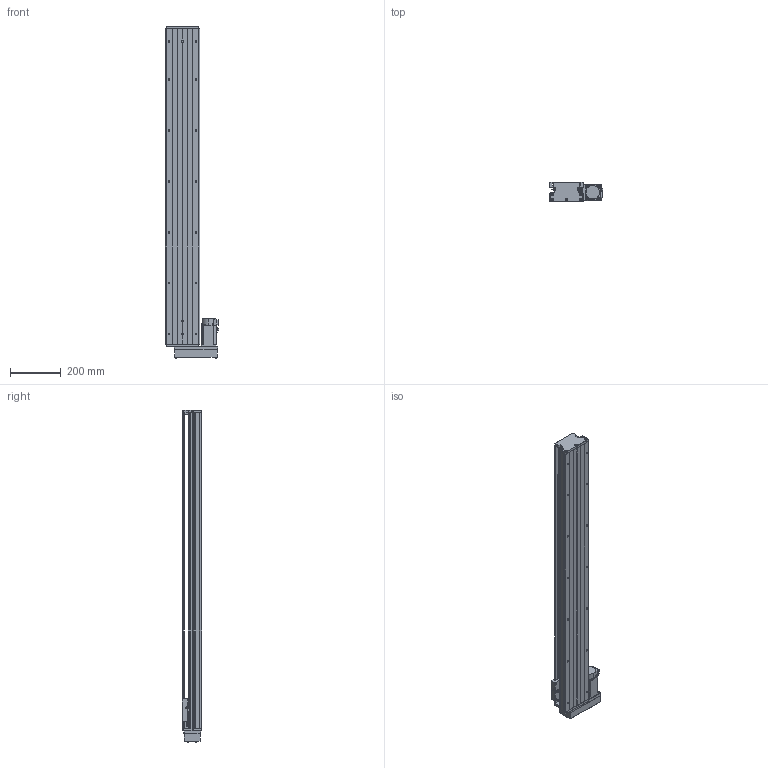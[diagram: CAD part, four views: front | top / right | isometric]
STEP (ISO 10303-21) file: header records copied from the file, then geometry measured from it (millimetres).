
FILE_DESCRIPTION (( 'STEP AP203' ), '1' );
FILE_NAME ('KTH130-1100-BR-M40-C4.step', '2023-06-30T04:10:27', ( '微软用户' ), ( '微软中国' ), 'SwSTEP 2.0', 'SolidWorks 2020', '' );
FILE_SCHEMA (( 'CONFIG_CONTROL_DESIGN' ));
Length unit declared in the file: millimetre
Products named in the file (19): CTHA60-017; HG-KN43J-S100; KTH130-002_KTH130-002; EE_SX911P_R; GBT 70.2-M4¡Á35_M4¡Á35; KTH130-004; CTHA60-016; GTH14-015-2_CTHA86-015-2; KTH130-005; GBT 70.1-M3℅5; GTH14-033; GB1155-6X6; GBT77-2000 M3×3; KTH130-1100-BR-M40-C4; GBT70.1 M5℅16; す晦芛蹟隊 M3℅5; GBT 70.2-M3¡Á5_M3¡Á6; GBT 70.3-M3℅8; GTH14-001_1100
Assembly tree (53 placements, depth 2):
  KTH130-1100-BR-M40-C4
    GTH14-001_1100
    KTH130-002_KTH130-002
    KTH130-004
    KTH130-005
    GB1155-6X6  x2
    GBT70.1 M5℅16  x10
    GBT 70.2-M3¡Á5_M3¡Á6  x4
    CTHA60-017  x3
    EE_SX911P_R  x3
    CTHA60-016  x2
    GBT 70.1-M3℅5  x6
    GBT77-2000 M3×3  x6
    す晦芛蹟隊 M3℅5  x2
    GBT 70.3-M3℅8  x4
    HG-KN43J-S100
    GBT 70.2-M4¡Á35_M4¡Á35  x4
    GTH14-015-2_CTHA86-015-2
    GTH14-033
Bounding box: 209.3 x 78 x 1304.2 mm (x, y, z)
Volume: 7200237.5 mm3; surface area: 1128310.5 mm2
Topology: 56 solids, 56 shells, 2243 faces, 5414 edges, 3374 vertices
Faces by surface type: plane 1201, cylinder 628, cone 290, torus 100, sphere 24
Entity records: 41174 total; most frequent: CARTESIAN_POINT 8734, DIRECTION 6159, ORIENTED_EDGE 6028, EDGE_CURVE 3014, AXIS2_PLACEMENT_3D 2130, VERTEX_POINT 1927, VECTOR 1899, LINE 1899
